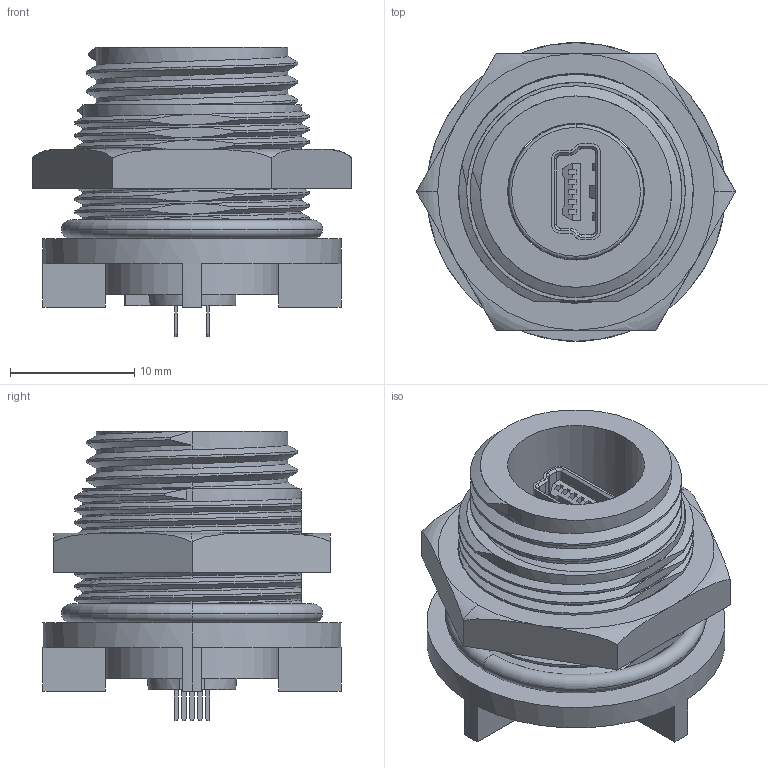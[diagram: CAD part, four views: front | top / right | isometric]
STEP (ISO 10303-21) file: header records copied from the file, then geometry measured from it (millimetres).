
FILE_DESCRIPTION(('STEP AP214'),'1');
FILE_NAME('PX0447.stp','2018-03-14T20:08:34',('TraceParts'),('TraceParts S.A.'),'Spatial InterOp 3D',' ',' ');
FILE_SCHEMA(('automotive_design'));
Length unit declared in the file: millimetre
Products named in the file (4): PX0447_1; PX0447_2; PX0447_3; PX0447_4
Bounding box: 25.66 x 24 x 23.3 mm (x, y, z)
Volume: 4757.9 mm3; surface area: 5371.8 mm2
Topology: 4 solids, 4 shells, 409 faces, 1075 edges, 688 vertices
Faces by surface type: plane 207, cylinder 100, bspline 53, cone 30, torus 19
Entity records: 20567 total; most frequent: CARTESIAN_POINT 10889, ORIENTED_EDGE 2150, DIRECTION 1760, EDGE_CURVE 1075, VERTEX_POINT 688, LINE 596, VECTOR 596, AXIS2_PLACEMENT_3D 582
